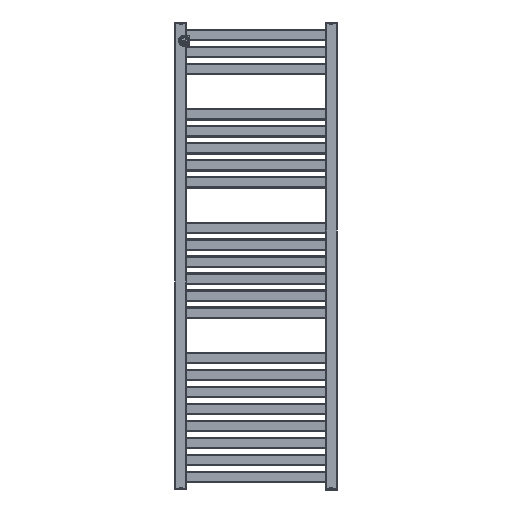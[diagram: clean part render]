
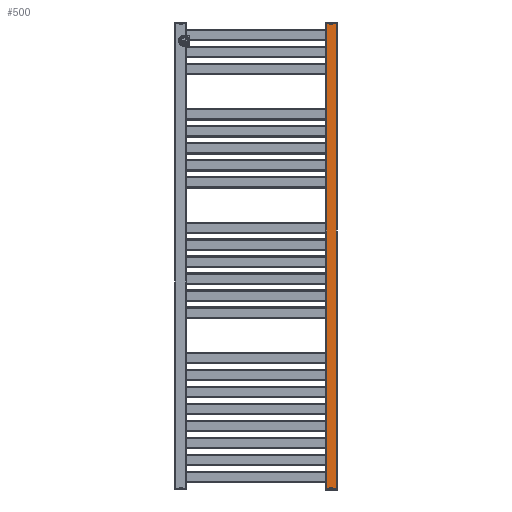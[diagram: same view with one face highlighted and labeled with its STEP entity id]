
A CAD part, front view. The second image highlights one B-rep face of the part: STEP entity #500.
In plain terms, the highlighted planar face has unit normal (0, -1, 0) as drawn and (-1, 0, 0) by its records, which use the part's own axes.
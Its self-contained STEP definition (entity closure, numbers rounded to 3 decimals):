
#500 = ADVANCED_FACE( '', ( #1216 ), #1217, .T. );
#1216 = FACE_OUTER_BOUND( '', #2159, .T. );
#1217 = PLANE( '', #2160 );
#2159 = EDGE_LOOP( '', ( #3811, #3812, #3813, #3814 ) );
#2160 = AXIS2_PLACEMENT_3D( '', #3815, #3816, #3817 );
#3811 = ORIENTED_EDGE( '', *, *, #5856, .T. );
#3812 = ORIENTED_EDGE( '', *, *, #5857, .T. );
#3813 = ORIENTED_EDGE( '', *, *, #5835, .F. );
#3814 = ORIENTED_EDGE( '', *, *, #5779, .T. );
#3815 = CARTESIAN_POINT( '', ( -15., 1236., 15. ) );
#3816 = DIRECTION( '', ( -1., 0., 0. ) );
#3817 = DIRECTION( '', ( 0., 0., 1. ) );
#5779 = EDGE_CURVE( '', #7143, #7141, #7144, .F. );
#5835 = EDGE_CURVE( '', #7143, #7216, #7217, .T. );
#5856 = EDGE_CURVE( '', #7141, #7243, #7244, .T. );
#5857 = EDGE_CURVE( '', #7243, #7216, #7245, .T. );
#7141 = VERTEX_POINT( '', #8847 );
#7143 = VERTEX_POINT( '', #8849 );
#7144 = LINE( '', #8850, #8851 );
#7216 = VERTEX_POINT( '', #8952 );
#7217 = LINE( '', #8953, #8954 );
#7243 = VERTEX_POINT( '', #8993 );
#7244 = LINE( '', #8994, #8995 );
#7245 = LINE( '', #8996, #8997 );
#8847 = CARTESIAN_POINT( '', ( -15., 1236., 12. ) );
#8849 = CARTESIAN_POINT( '', ( -15., 0., 12. ) );
#8850 = CARTESIAN_POINT( '', ( -15., 1236., 12. ) );
#8851 = VECTOR( '', #10503, 1000. );
#8952 = CARTESIAN_POINT( '', ( -15., 0., -12. ) );
#8953 = CARTESIAN_POINT( '', ( -15., 0., 15. ) );
#8954 = VECTOR( '', #10560, 1000. );
#8993 = CARTESIAN_POINT( '', ( -15., 1236., -12. ) );
#8994 = CARTESIAN_POINT( '', ( -15., 1236., 15. ) );
#8995 = VECTOR( '', #10577, 1000. );
#8996 = CARTESIAN_POINT( '', ( -15., 1236., -12. ) );
#8997 = VECTOR( '', #10578, 1000. );
#10503 = DIRECTION( '', ( 0., -1., 0. ) );
#10560 = DIRECTION( '', ( 0., 0., -1. ) );
#10577 = DIRECTION( '', ( 0., 0., -1. ) );
#10578 = DIRECTION( '', ( 0., -1., 0. ) );
